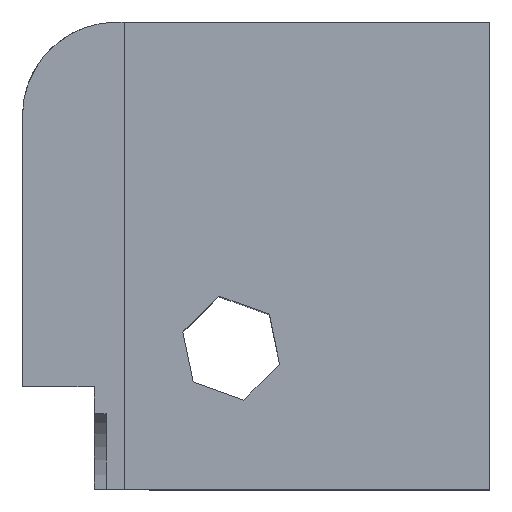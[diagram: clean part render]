
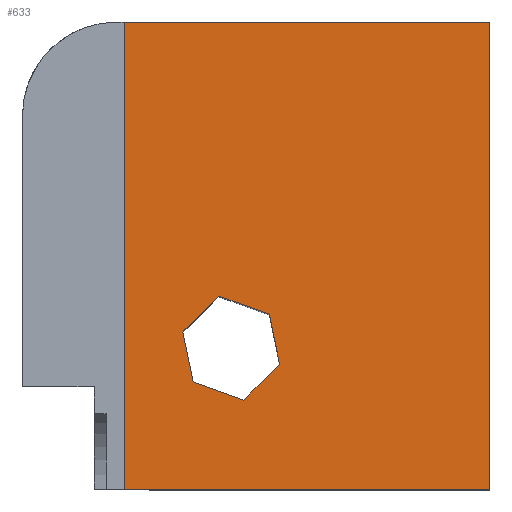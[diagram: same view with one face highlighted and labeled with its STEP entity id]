
A CAD part, top view. The second image highlights one B-rep face of the part: STEP entity #633.
In plain terms, the highlighted planar face has unit normal (0, 0, 1).
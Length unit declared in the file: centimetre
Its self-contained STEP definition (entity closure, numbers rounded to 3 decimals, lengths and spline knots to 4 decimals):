
#15 = EDGE_CURVE ( 'NONE', #1076, #630, #153, .T. ) ;
#24 = EDGE_CURVE ( 'NONE', #494, #345, #145, .T. ) ;
#30 = DIRECTION ( 'NONE',  ( -1., 0., 0. ) ) ;
#37 = CARTESIAN_POINT ( 'NONE',  ( 343.5285, 336.4225, 1000. ) ) ;
#41 = DIRECTION ( 'NONE',  ( -0.707, -0.707, 0. ) ) ;
#43 = DIRECTION ( 'NONE',  ( 0., 1., 0. ) ) ;
#44 = VERTEX_POINT ( 'NONE', #984 ) ;
#53 = VECTOR ( 'NONE', #30, 100. ) ;
#54 = LINE ( 'NONE', #1306, #515 ) ;
#73 = ORIENTED_EDGE ( 'NONE', *, *, #1104, .T. ) ;
#78 = DIRECTION ( 'NONE',  ( 0.707, 0.707, 0. ) ) ;
#136 = DIRECTION ( 'NONE',  ( -0.941, 0.34, 0. ) ) ;
#142 = CARTESIAN_POINT ( 'NONE',  ( 365.4487, 229.5442, 1000. ) ) ;
#145 = LINE ( 'NONE', #871, #955 ) ;
#150 = VECTOR ( 'NONE', #788, 100. ) ;
#151 = LINE ( 'NONE', #985, #980 ) ;
#153 = LINE ( 'NONE', #568, #53 ) ;
#154 = CARTESIAN_POINT ( 'NONE',  ( 0., 0., 1000. ) ) ;
#162 = ORIENTED_EDGE ( 'NONE', *, *, #24, .T. ) ;
#178 = CARTESIAN_POINT ( 'NONE',  ( 528.6471, 374.3895, 1000. ) ) ;
#180 = DIRECTION ( 'NONE',  ( 0.201, -0.98, 0. ) ) ;
#203 = VECTOR ( 'NONE', #476, 100. ) ;
#219 = LINE ( 'NONE', #154, #203 ) ;
#240 = LINE ( 'NONE', #565, #150 ) ;
#263 = VECTOR ( 'NONE', #180, 100. ) ;
#285 = CARTESIAN_POINT ( 'NONE',  ( 550.5674, 267.5112, 1000. ) ) ;
#312 = VERTEX_POINT ( 'NONE', #946 ) ;
#316 = CARTESIAN_POINT ( 'NONE',  ( 217.9727, 1000., 1000. ) ) ;
#345 = VERTEX_POINT ( 'NONE', #142 ) ;
#376 = LINE ( 'NONE', #475, #662 ) ;
#394 = ORIENTED_EDGE ( 'NONE', *, *, #462, .T. ) ;
#400 = EDGE_CURVE ( 'NONE', #345, #1340, #54, .T. ) ;
#408 = CARTESIAN_POINT ( 'NONE',  ( 0., 0., 1000. ) ) ;
#410 = VECTOR ( 'NONE', #78, 100. ) ;
#424 = EDGE_CURVE ( 'NONE', #312, #1076, #240, .T. ) ;
#462 = EDGE_CURVE ( 'NONE', #517, #494, #151, .T. ) ;
#475 = CARTESIAN_POINT ( 'NONE',  ( 217.9727, 0., 1000. ) ) ;
#476 = DIRECTION ( 'NONE',  ( 1., 0., 0. ) ) ;
#478 = AXIS2_PLACEMENT_3D ( 'NONE', #408, #1136, #827 ) ;
#480 = DIRECTION ( 'NONE',  ( -0.201, 0.98, 0. ) ) ;
#494 = VERTEX_POINT ( 'NONE', #809 ) ;
#502 = CARTESIAN_POINT ( 'NONE',  ( 217.9727, 0., 1000. ) ) ;
#504 = LINE ( 'NONE', #1331, #263 ) ;
#515 = VECTOR ( 'NONE', #480, 100. ) ;
#517 = VERTEX_POINT ( 'NONE', #285 ) ;
#557 = EDGE_CURVE ( 'NONE', #1340, #44, #1119, .T. ) ;
#565 = CARTESIAN_POINT ( 'NONE',  ( 1000., 1000., 1000. ) ) ;
#568 = CARTESIAN_POINT ( 'NONE',  ( 0., 1000., 1000. ) ) ;
#572 = ORIENTED_EDGE ( 'NONE', *, *, #777, .T. ) ;
#573 = EDGE_CURVE ( 'NONE', #889, #517, #504, .T. ) ;
#630 = VERTEX_POINT ( 'NONE', #316 ) ;
#633 = ADVANCED_FACE ( 'NONE', ( #937, #714 ), #1365, .T. ) ;
#662 = VECTOR ( 'NONE', #43, 100. ) ;
#689 = CARTESIAN_POINT ( 'NONE',  ( 343.5285, 336.4225, 1000. ) ) ;
#714 = FACE_BOUND ( 'NONE', #1308, .T. ) ;
#777 = EDGE_CURVE ( 'NONE', #953, #312, #219, .T. ) ;
#788 = DIRECTION ( 'NONE',  ( 0., 1., 0. ) ) ;
#809 = CARTESIAN_POINT ( 'NONE',  ( 473.5565, 190.5002, 1000. ) ) ;
#827 = DIRECTION ( 'NONE',  ( 1., 0., 0. ) ) ;
#835 = ORIENTED_EDGE ( 'NONE', *, *, #424, .T. ) ;
#871 = CARTESIAN_POINT ( 'NONE',  ( 473.5565, 190.5002, 1000. ) ) ;
#889 = VERTEX_POINT ( 'NONE', #178 ) ;
#928 = LINE ( 'NONE', #1356, #1330 ) ;
#937 = FACE_OUTER_BOUND ( 'NONE', #1325, .T. ) ;
#946 = CARTESIAN_POINT ( 'NONE',  ( 1000., 0., 1000. ) ) ;
#953 = VERTEX_POINT ( 'NONE', #502 ) ;
#955 = VECTOR ( 'NONE', #136, 100. ) ;
#980 = VECTOR ( 'NONE', #41, 100. ) ;
#984 = CARTESIAN_POINT ( 'NONE',  ( 420.5394, 413.4334, 1000. ) ) ;
#985 = CARTESIAN_POINT ( 'NONE',  ( 550.5674, 267.5112, 1000. ) ) ;
#1076 = VERTEX_POINT ( 'NONE', #1165 ) ;
#1104 = EDGE_CURVE ( 'NONE', #44, #889, #928, .T. ) ;
#1119 = LINE ( 'NONE', #689, #410 ) ;
#1136 = DIRECTION ( 'NONE',  ( 0., 0., 1. ) ) ;
#1137 = ORIENTED_EDGE ( 'NONE', *, *, #573, .T. ) ;
#1141 = ORIENTED_EDGE ( 'NONE', *, *, #557, .T. ) ;
#1142 = DIRECTION ( 'NONE',  ( 0.941, -0.34, 0. ) ) ;
#1165 = CARTESIAN_POINT ( 'NONE',  ( 1000., 1000., 1000. ) ) ;
#1247 = ORIENTED_EDGE ( 'NONE', *, *, #1333, .F. ) ;
#1306 = CARTESIAN_POINT ( 'NONE',  ( 365.4487, 229.5442, 1000. ) ) ;
#1308 = EDGE_LOOP ( 'NONE', ( #1363, #1141, #73, #1137, #394, #162 ) ) ;
#1325 = EDGE_LOOP ( 'NONE', ( #1247, #572, #835, #1359 ) ) ;
#1330 = VECTOR ( 'NONE', #1142, 100. ) ;
#1331 = CARTESIAN_POINT ( 'NONE',  ( 528.6471, 374.3895, 1000. ) ) ;
#1333 = EDGE_CURVE ( 'NONE', #953, #630, #376, .T. ) ;
#1340 = VERTEX_POINT ( 'NONE', #37 ) ;
#1356 = CARTESIAN_POINT ( 'NONE',  ( 420.5394, 413.4334, 1000. ) ) ;
#1359 = ORIENTED_EDGE ( 'NONE', *, *, #15, .T. ) ;
#1363 = ORIENTED_EDGE ( 'NONE', *, *, #400, .T. ) ;
#1365 = PLANE ( 'NONE',  #478 ) ;
